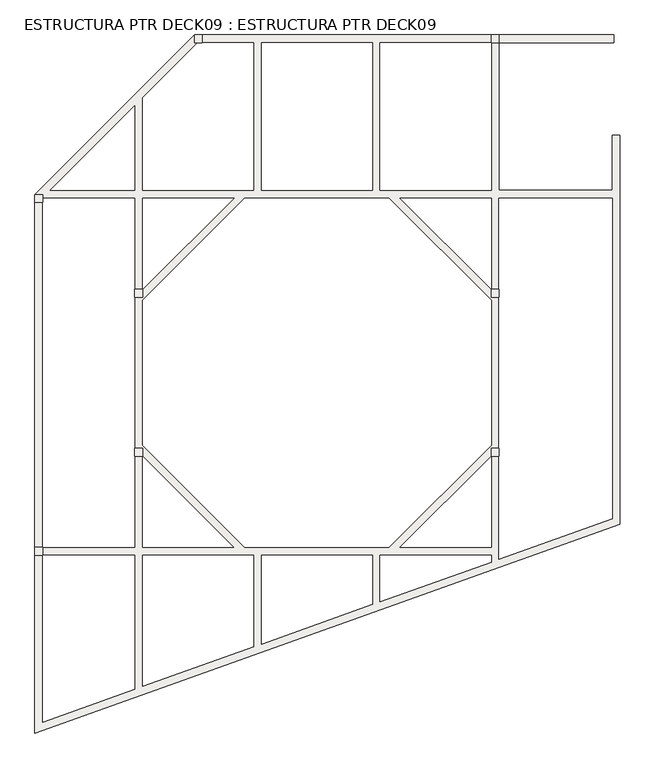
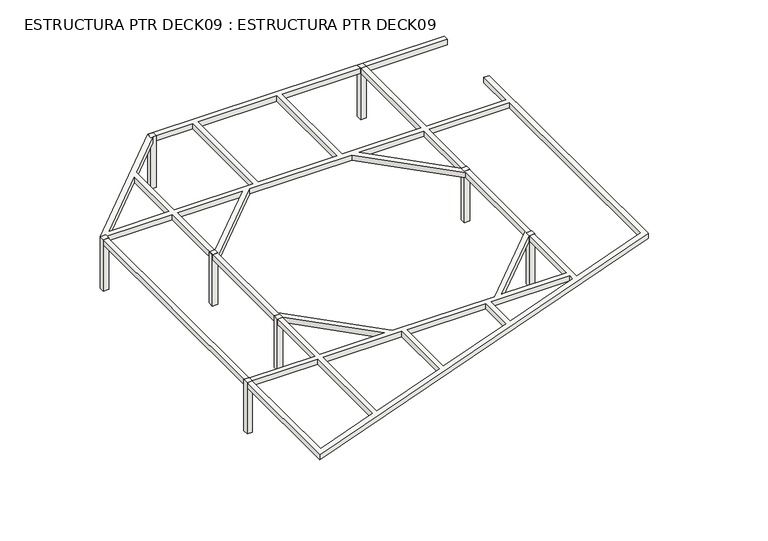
"""IFC4 building model written with IfcOpenShell, lengths in millimetres: slab geometry, ESTRUCTURA PTR DECK09 : ESTRUCTURA PTR DECK09."""

from ifc_helpers import new_model, si_unit, frame, origin, place, context, project, spatial, polyline, outline, extrude, source, transform, mapped, element, save


def estructura_ptr_deck09_estructura_ptr_deck09_391a90b6(model_context):
    return source(origin(), model_context, "Body", "SweptSolid", [
        extrude(outline(polyline([(37906.5301921, 24374.0887715), (37906.5301921, 24335.9887715), (37868.4301921, 24335.9887715), (37868.4301921, 24374.0887715), (37906.5301921, 24374.0887715)])), frame((0.0, 0.0, 15000.0), z_axis=(0.0, 0.0, 1.0), x_axis=(1.0, 0.0, 0.0)), (0.0, 0.0, 1.0), 380.0),
        extrude(outline(polyline([(39666.861917, 24374.0887715), (39666.861917, 24335.9887715), (39628.761917, 24335.9887715), (39628.761917, 24374.0887715), (39666.861917, 24374.0887715)])), frame((0.0, 0.0, 15000.0), z_axis=(0.0, 0.0, 1.0), x_axis=(1.0, 0.0, 0.0)), (0.0, 0.0, 1.0), 380.0),
        extrude(outline(polyline([(37906.5301921, 23550.7891206), (37868.4301921, 23550.7891206), (37868.4301921, 23588.8891206), (37906.5301921, 23588.8891206), (37906.5301921, 23550.7891206)])), frame((0.0, 0.0, 15000.0), z_axis=(0.0, 0.0, 1.0), x_axis=(1.0, 0.0, 0.0)), (0.0, 0.0, 1.0), 380.0),
        extrude(outline(polyline([(39666.861917, 23550.7891206), (39628.761917, 23550.7891206), (39628.761917, 23588.8891206), (39666.861917, 23588.8891206), (39666.861917, 23550.7891206)])), frame((0.0, 0.0, 15000.0), z_axis=(0.0, 0.0, 1.0), x_axis=(1.0, 0.0, 0.0)), (0.0, 0.0, 1.0), 380.0),
        extrude(outline(polyline([(37412.6300226, 24841.0745988), (37412.6300226, 24802.9745988), (37374.5300226, 24802.9745988), (37374.5300226, 24841.0745988), (37412.6300226, 24841.0745988)])), frame((0.0, 0.0, 15000.0), z_axis=(0.0, 0.0, 1.0), x_axis=(1.0, 0.0, 0.0)), (0.0, 0.0, 1.0), 380.0),
        extrude(outline(polyline([(38201.5554238, 25630.0), (38201.5554238, 25591.9), (38163.4554238, 25591.9), (38163.4554238, 25630.0), (38201.5554238, 25630.0)])), frame((0.0, 0.0, 15000.0), z_axis=(0.0, 0.0, 1.0), x_axis=(1.0, 0.0, 0.0)), (0.0, 0.0, 1.0), 380.0),
        extrude(outline(polyline([(37412.6300226, 23100.5403522), (37412.6300226, 23062.4403522), (37374.5300226, 23062.4403522), (37374.5300226, 23100.5403522), (37412.6300226, 23100.5403522)])), frame((0.0, 0.0, 15000.0), z_axis=(0.0, 0.0, 1.0), x_axis=(1.0, 0.0, 0.0)), (0.0, 0.0, 1.0), 380.0),
        extrude(outline(polyline([(39666.861917, 25630.0), (39666.861917, 25591.9), (39628.761917, 25591.9), (39628.761917, 25630.0), (39666.861917, 25630.0)])), frame((0.0, 0.0, 15000.0), z_axis=(0.0, 0.0, 1.0), x_axis=(1.0, 0.0, 0.0)), (0.0, 0.0, 1.0), 380.0),
        extrude(outline(polyline([(37374.5300226, 22183.9259514), (37374.5300226, 24841.0745988), (38163.4554238, 25630.0), (40234.5059119, 25630.0), (40234.5059119, 25591.9), (39666.861917, 25591.9), (39666.861917, 24862.9750799), (40226.4059119, 24862.9750799), (40226.4059119, 25134.0112971), (40264.5059119, 25134.0112971), (40264.5059119, 23213.7791487), (37374.5300226, 22183.9259514)]), holes=[polyline([(37906.5301921, 25319.1932316), (37906.5301921, 24862.9750799), (38455.2074337, 24862.9750799), (38455.2074337, 25591.9), (38179.2369605, 25591.9), (37906.5301921, 25319.1932316)]), polyline([(37412.6300226, 23100.5403522), (37868.4301921, 23100.5403522), (37868.4301921, 24824.8750799), (37412.6300226, 24824.8750799), (37412.6300226, 23100.5403522)]), polyline([(37868.4301921, 24862.9750799), (37868.4301921, 25281.0932316), (37450.3120404, 24862.9750799), (37868.4301921, 24862.9750799)]), polyline([(39666.861917, 24824.8750799), (39666.861917, 23041.2534231), (40226.4059119, 23240.6489178), (40226.4059119, 24824.8750799), (39666.861917, 24824.8750799)]), polyline([(39628.761917, 24862.9750799), (39628.761917, 25591.9), (39080.0846754, 25591.9), (39080.0846754, 24862.9750799), (39628.761917, 24862.9750799)]), polyline([(39080.0846754, 23062.4403522), (39080.0846754, 22832.1532639), (39628.761917, 23027.6763524), (39628.761917, 23062.4403522), (39080.0846754, 23062.4403522)]), polyline([(38493.3074337, 25591.9), (38493.3074337, 24862.9750799), (39041.9846754, 24862.9750799), (39041.9846754, 25591.9), (38493.3074337, 25591.9)]), polyline([(38493.3074337, 22623.0531048), (39041.9846754, 22818.5761933), (39041.9846754, 23062.4403522), (38493.3074337, 23062.4403522), (38493.3074337, 22623.0531048)]), polyline([(38455.2074337, 22609.4760341), (38455.2074337, 23062.4403522), (37906.5301921, 23062.4403522), (37906.5301921, 22413.9529456), (38455.2074337, 22609.4760341)]), polyline([(39628.761917, 24374.0887715), (39628.761917, 24824.8750799), (39177.9756086, 24824.8750799), (39628.761917, 24374.0887715)]), polyline([(37906.5301921, 24374.0887715), (38357.3165005, 24824.8750799), (37906.5301921, 24824.8750799), (37906.5301921, 24374.0887715)]), polyline([(37868.4301921, 22400.375875), (37868.4301921, 23062.4403522), (37412.6300226, 23062.4403522), (37412.6300226, 22237.9498618), (37868.4301921, 22400.375875)]), polyline([(38411.1980373, 24824.8750799), (37906.5301921, 24320.2072348), (37906.5301921, 23604.6706573), (38410.6604973, 23100.5403522), (39124.6316118, 23100.5403522), (39628.761917, 23604.6706573), (39628.761917, 24320.2072348), (39124.0940718, 24824.8750799), (38411.1980373, 24824.8750799)]), polyline([(38356.7789606, 23100.5403522), (37906.5301921, 23550.7891206), (37906.5301921, 23100.5403522), (38356.7789606, 23100.5403522)]), polyline([(39178.5131485, 23100.5403522), (39628.761917, 23100.5403522), (39628.761917, 23550.7891206), (39178.5131485, 23100.5403522)])]), frame((0.0, 0.0, 15341.9), z_axis=(0.0, 0.0, 1.0), x_axis=(1.0, 0.0, 0.0)), (0.0, 0.0, 1.0), 38.1),
    ])


if __name__ == "__main__":
    model = new_model("IFC4")
    model_context = context("Model", 3, world=origin())
    ifc_project = project(units=[si_unit("LENGTHUNIT", "METRE", prefix="MILLI")], contexts=[model_context])
    site = spatial("IfcSite", under=ifc_project)
    building = spatial("IfcBuilding", under=site)
    placement = place(None, origin())
    estructura_ptr_deck09_estructura_ptr_deck09_shape = estructura_ptr_deck09_estructura_ptr_deck09_391a90b6(model_context)
    element("IfcSlab", 1, ObjectType="ESTRUCTURA PTR DECK09 : ESTRUCTURA PTR DECK09", at=placement, inside=building, context=model_context, shape_type="MappedRepresentation", body=[
        mapped(estructura_ptr_deck09_estructura_ptr_deck09_shape, transform((0.0, 0.0, 0.0), x_axis=(1.0, 0.0, 0.0), y_axis=(0.0, 1.0, 0.0), z_axis=(0.0, 0.0, 1.0))),
    ])
    save(model, "model.ifc")
